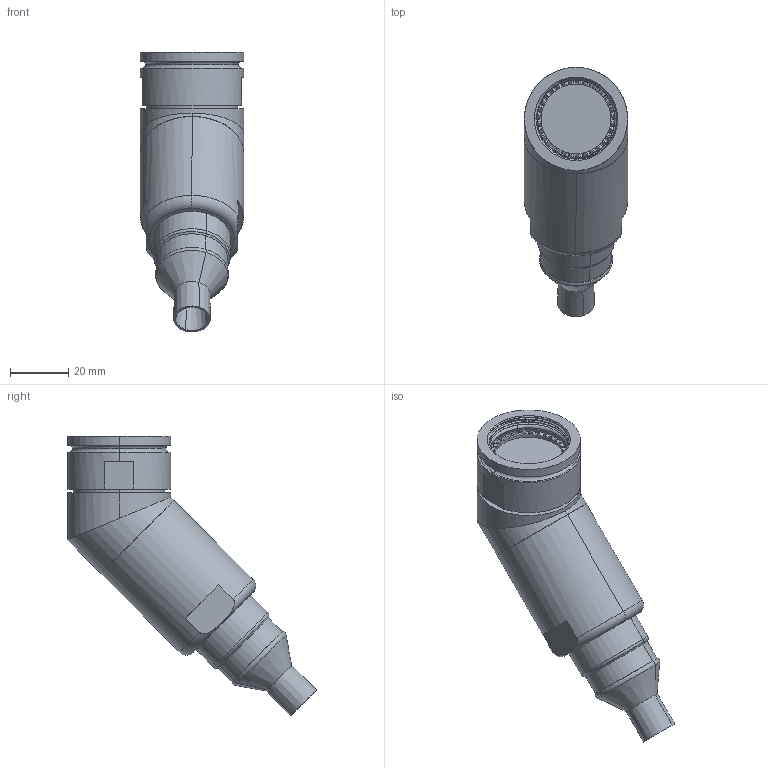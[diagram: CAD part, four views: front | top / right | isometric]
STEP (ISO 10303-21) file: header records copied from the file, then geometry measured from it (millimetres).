
FILE_DESCRIPTION (( 'STEP AP214' ), '1' );
FILE_NAME ('Q38SHELL-45X-19-XXXX-HX.STEP', '2025-09-25T19:58:15', ( '' ), ( '' ), 'SwSTEP 2.0', 'SolidWorks 2024', '' );
FILE_SCHEMA (( 'AUTOMOTIVE_DESIGN' ));
Length unit declared in the file: millimetre
Products named in the file (1): Q38SHELL-45X-19-XXXX-HX
Bounding box: 35.38 x 85.33 x 95.87 mm (x, y, z)
Volume: 81814.5 mm3; surface area: 17076.6 mm2
Topology: 2 solids, 2 shells, 227 faces, 602 edges, 392 vertices
Faces by surface type: plane 153, cylinder 39, cone 18, torus 14, bspline 3
Entity records: 8063 total; most frequent: CARTESIAN_POINT 2618, ORIENTED_EDGE 1204, DIRECTION 1144, EDGE_CURVE 602, AXIS2_PLACEMENT_3D 473, VERTEX_POINT 392, CIRCLE 248, EDGE_LOOP 242
